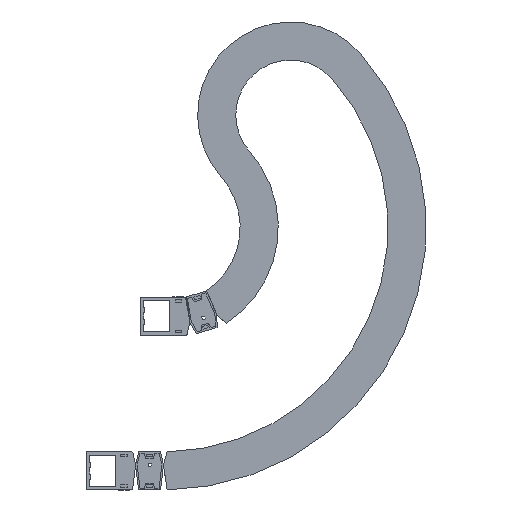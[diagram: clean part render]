
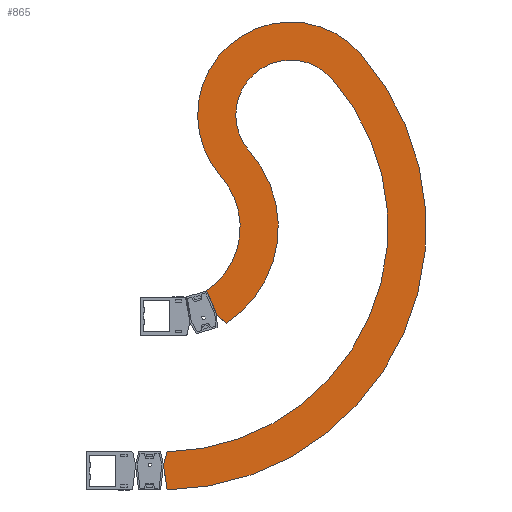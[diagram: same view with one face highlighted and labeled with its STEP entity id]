
A CAD part, front view. The second image highlights one B-rep face of the part: STEP entity #865.
In plain terms, the highlighted planar face has unit normal (0, -1, 0).
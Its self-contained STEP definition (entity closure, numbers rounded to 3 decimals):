
#865 = ADVANCED_FACE( '', ( #1743 ), #1744, .F. );
#1743 = FACE_OUTER_BOUND( '', #2603, .T. );
#1744 = PLANE( '', #2604 );
#2603 = EDGE_LOOP( '', ( #5064, #5065, #5066, #5067, #5068, #5069, #5070, #5071, #5072, #5073 ) );
#2604 = AXIS2_PLACEMENT_3D( '', #5074, #5075, #5076 );
#5064 = ORIENTED_EDGE( '', *, *, #5979, .F. );
#5065 = ORIENTED_EDGE( '', *, *, #6069, .F. );
#5066 = ORIENTED_EDGE( '', *, *, #6202, .F. );
#5067 = ORIENTED_EDGE( '', *, *, #5659, .T. );
#5068 = ORIENTED_EDGE( '', *, *, #5912, .F. );
#5069 = ORIENTED_EDGE( '', *, *, #5537, .F. );
#5070 = ORIENTED_EDGE( '', *, *, #6052, .F. );
#5071 = ORIENTED_EDGE( '', *, *, #5617, .T. );
#5072 = ORIENTED_EDGE( '', *, *, #6151, .T. );
#5073 = ORIENTED_EDGE( '', *, *, #6179, .F. );
#5074 = CARTESIAN_POINT( '', ( 0., -97.5, 0. ) );
#5075 = DIRECTION( '', ( 0., 1., 0. ) );
#5076 = DIRECTION( '', ( 0., 0., 1. ) );
#5537 = EDGE_CURVE( '', #6795, #6797, #6798, .T. );
#5617 = EDGE_CURVE( '', #6930, #6931, #6932, .T. );
#5659 = EDGE_CURVE( '', #6997, #6998, #6999, .T. );
#5912 = EDGE_CURVE( '', #6797, #6998, #7372, .T. );
#5979 = EDGE_CURVE( '', #7462, #7464, #7465, .T. );
#6052 = EDGE_CURVE( '', #6930, #6795, #7559, .T. );
#6069 = EDGE_CURVE( '', #7577, #7462, #7578, .T. );
#6151 = EDGE_CURVE( '', #6931, #7671, #7672, .T. );
#6179 = EDGE_CURVE( '', #7464, #7671, #7701, .T. );
#6202 = EDGE_CURVE( '', #6997, #7577, #7724, .T. );
#6795 = VERTEX_POINT( '', #8555 );
#6797 = VERTEX_POINT( '', #8558 );
#6798 = LINE( '', #8559, #8560 );
#6930 = VERTEX_POINT( '', #8741 );
#6931 = VERTEX_POINT( '', #8742 );
#6932 = CIRCLE( '', #8743, 118. );
#6997 = VERTEX_POINT( '', #8833 );
#6998 = VERTEX_POINT( '', #8834 );
#6999 = CIRCLE( '', #8835, 165. );
#7372 = LINE( '', #9383, #9384 );
#7462 = VERTEX_POINT( '', #9515 );
#7464 = VERTEX_POINT( '', #9518 );
#7465 = LINE( '', #9519, #9520 );
#7559 = CIRCLE( '', #9648, 247. );
#7577 = VERTEX_POINT( '', #9675 );
#7578 = CIRCLE( '', #9676, 565. );
#7671 = VERTEX_POINT( '', #9804 );
#7672 = CIRCLE( '', #9805, 483. );
#7701 = LINE( '', #9842, #9843 );
#7724 = CIRCLE( '', #9874, 200. );
#8555 = CARTESIAN_POINT( '', ( 135.342, -97.5, -206.619 ) );
#8558 = CARTESIAN_POINT( '', ( 114.074, -97.5, -186.71 ) );
#8559 = CARTESIAN_POINT( '', ( 135.342, -97.5, -206.619 ) );
#8560 = VECTOR( '', #10232, 1000. );
#8741 = CARTESIAN_POINT( '', ( 185.08, -97.5, 163.567 ) );
#8742 = CARTESIAN_POINT( '', ( 361.918, -97.5, 319.85 ) );
#8743 = AXIS2_PLACEMENT_3D( '', #10324, #10325, #10326 );
#8833 = CARTESIAN_POINT( '', ( 123.637, -97.5, 109.266 ) );
#8834 = CARTESIAN_POINT( '', ( 92.675, -97.5, -136.515 ) );
#8835 = AXIS2_PLACEMENT_3D( '', #10373, #10374, #10375 );
#9383 = CARTESIAN_POINT( '', ( 114.074, -97.5, -186.71 ) );
#9384 = VECTOR( '', #10644, 1000. );
#9515 = CARTESIAN_POINT( '', ( 7.873, -97.5, -564.945 ) );
#9518 = CARTESIAN_POINT( '', ( 0., -97.5, -511.2 ) );
#9519 = CARTESIAN_POINT( '', ( 7.873, -97.5, -564.945 ) );
#9520 = VECTOR( '', #10708, 1000. );
#9648 = AXIS2_PLACEMENT_3D( '', #10773, #10774, #10775 );
#9675 = CARTESIAN_POINT( '', ( 423.362, -97.5, 374.152 ) );
#9676 = AXIS2_PLACEMENT_3D( '', #10788, #10789, #10790 );
#9804 = CARTESIAN_POINT( '', ( 7.82, -97.5, -482.937 ) );
#9805 = AXIS2_PLACEMENT_3D( '', #10850, #10851, #10852 );
#9842 = CARTESIAN_POINT( '', ( 0., -97.5, -511.2 ) );
#9843 = VECTOR( '', #10870, 1000. );
#9874 = AXIS2_PLACEMENT_3D( '', #10879, #10880, #10881 );
#10232 = DIRECTION( '', ( -0.73, 0., 0.683 ) );
#10324 = CARTESIAN_POINT( '', ( 273.499, -97.5, 241.709 ) );
#10325 = DIRECTION( '', ( 0., 1., 0. ) );
#10326 = DIRECTION( '', ( 1., 0., 0. ) );
#10373 = CARTESIAN_POINT( '', ( 0., -97.5, 0. ) );
#10374 = DIRECTION( '', ( 0., 1., 0. ) );
#10375 = DIRECTION( '', ( 1., 0., 0. ) );
#10644 = DIRECTION( '', ( -0.392, 0., 0.92 ) );
#10708 = DIRECTION( '', ( -0.145, 0., 0.989 ) );
#10773 = CARTESIAN_POINT( '', ( 0., -97.5, 0. ) );
#10774 = DIRECTION( '', ( 0., 1., 0. ) );
#10775 = DIRECTION( '', ( 1., 0., 0. ) );
#10788 = CARTESIAN_POINT( '', ( 0., -97.5, 0. ) );
#10789 = DIRECTION( '', ( 0., 1., 0. ) );
#10790 = DIRECTION( '', ( 1., 0., 0. ) );
#10850 = CARTESIAN_POINT( '', ( 0., -97.5, 0. ) );
#10851 = DIRECTION( '', ( 0., 1., 0. ) );
#10852 = DIRECTION( '', ( 1., 0., 0. ) );
#10870 = DIRECTION( '', ( 0.267, 0., 0.964 ) );
#10879 = CARTESIAN_POINT( '', ( 273.499, -97.5, 241.709 ) );
#10880 = DIRECTION( '', ( 0., 1., 0. ) );
#10881 = DIRECTION( '', ( 1., 0., 0. ) );
